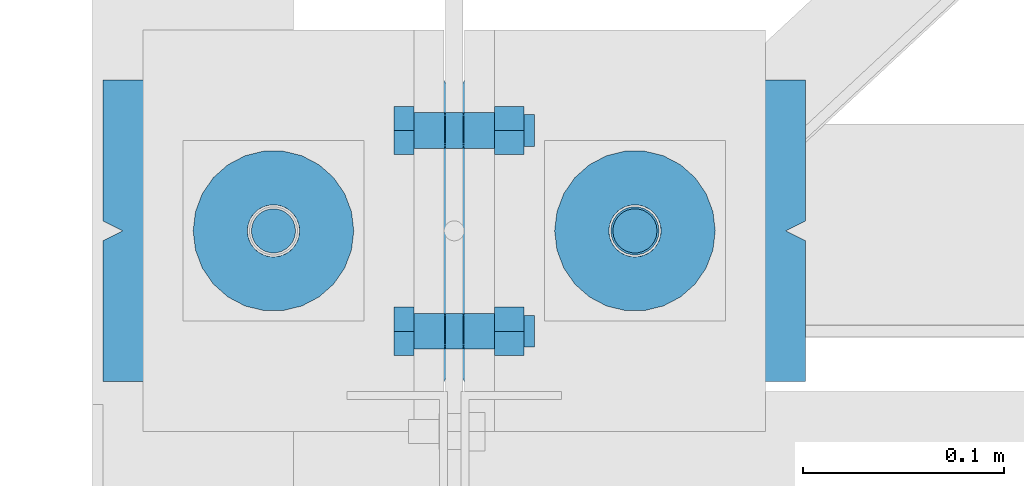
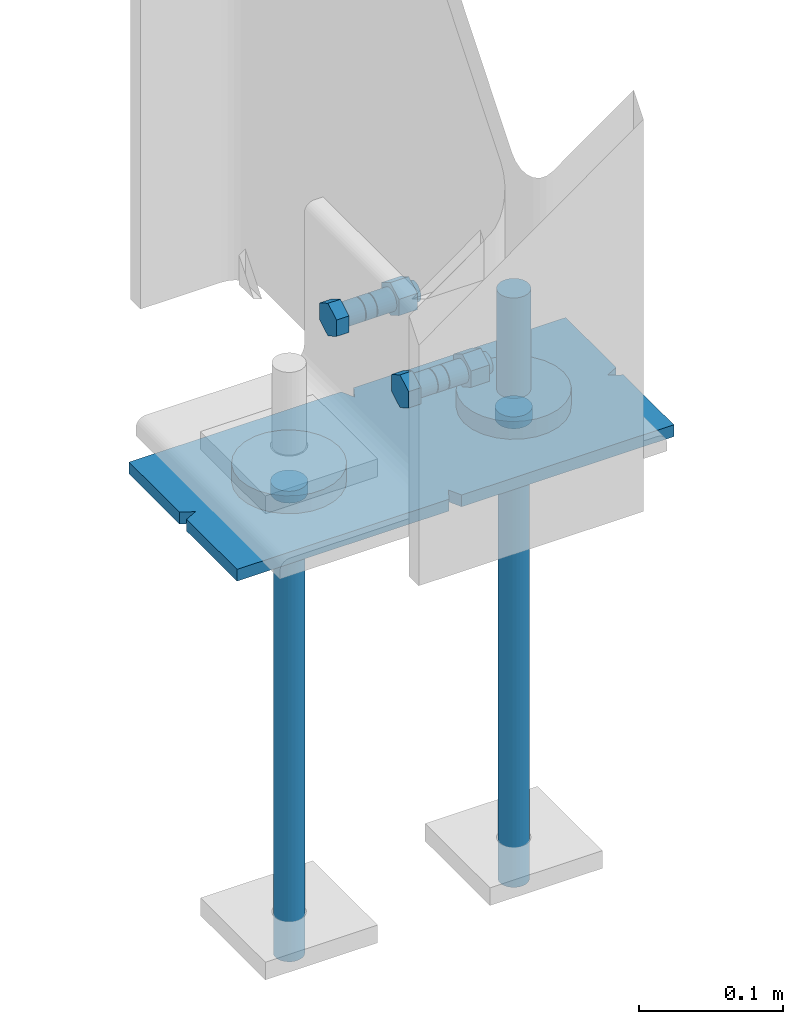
# One storey, part 59 of 123: 4 discrete accessories, 4 mechanical fasteners, 3 elements without a shape of their own.
"""IFC2X3 building model written with IfcOpenShell, lengths in millimetres."""

from ifc_helpers import new_model, si_unit, frame, origin_with_axes, origin_2d_with_axis, place, context, subcontext, project, spatial, polyline, circle, outline, extrude, boolean, source, transform, mapped, material, type_object, element, aggregate, save


model = new_model("IFC2X3")

# Units and contexts
model_context = context("Model", 3, precision=1e-05, world=origin_with_axes())
body_context = subcontext(model_context, "Body", "Model", "MODEL_VIEW")
ifc_project = project(units=[si_unit("LENGTHUNIT", "METRE", prefix="MILLI"), si_unit("AREAUNIT", "SQUARE_METRE"), si_unit("VOLUMEUNIT", "CUBIC_METRE"), si_unit("MASSUNIT", "GRAM", prefix="KILO"), si_unit("TIMEUNIT", "SECOND"), si_unit("PLANEANGLEUNIT", "RADIAN"), si_unit("SOLIDANGLEUNIT", "STERADIAN"), si_unit("THERMODYNAMICTEMPERATUREUNIT", "DEGREE_CELSIUS"), si_unit("LUMINOUSINTENSITYUNIT", "LUMEN")], contexts=[model_context])

# Site, building, storey
site_placement = place(None, origin_with_axes())
site = spatial("IfcSite", under=ifc_project, at=site_placement, Name="Undefined", CompositionType="ELEMENT")
building_placement = place(site_placement, origin_with_axes())
building = spatial("IfcBuilding", under=site, at=building_placement, Name="Undefined", CompositionType="ELEMENT")
storey_placement = place(building_placement, origin_with_axes())
storey = spatial("IfcBuildingStorey", under=building, at=storey_placement, Name="Undefined", CompositionType="ELEMENT", Elevation=0.0)

# Assembly, mechanical fastener
assembly_1_placement = place(storey_placement, origin_with_axes())
assembly_1 = element("IfcElementAssembly", 1, at=assembly_1_placement, inside=storey, Name="Steel Assembly", AssemblyPlace="NOTDEFINED", PredefinedType="RIGID_FRAME")
ifc_material_1 = material(Name="6.8")
discrete_accessory_type_1 = type_object("IfcDiscreteAccessoryType", Name="Bolt assembly")
shared_shape_1 = source(origin_with_axes(), body_context, "Body", "SweptSolid", [
    extrude(circle(Radius=40.0, at=origin_2d_with_axis()), frame((0.0, -15.0, 0.0), z_axis=(0.0, 1.0, 0.0), x_axis=(1.0, 0.0, 0.0)), (0.0, 0.0, 1.0), 15.1),
])
mechanical_fastener_1_placement = place(assembly_1_placement, frame((-90.0028495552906, 0.0, -250.0), z_axis=(0.0, 1.0, 0.0), x_axis=(1.0, 0.0, 0.0)))
mechanical_fastener_1 = element("IfcMechanicalFastener", 2, at=mechanical_fastener_1_placement, type_object=discrete_accessory_type_1, material=ifc_material_1, Name="Bolt assembly", NominalDiameter=30.0, NominalLength=15.0, context=body_context, shape_type="MappedRepresentation", body=[
    mapped(shared_shape_1, transform((0.0, 0.0, 0.0))),
])

assembly_2_placement = place(storey_placement, origin_with_axes())
assembly_2 = element("IfcElementAssembly", 3, at=assembly_2_placement, inside=storey, Name="Steel Assembly", AssemblyPlace="NOTDEFINED", PredefinedType="RIGID_FRAME")
mechanical_fastener_2_placement = place(assembly_2_placement, frame((89.9971504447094, 0.0, -250.0), z_axis=(0.0, -1.0, 0.0), x_axis=(-1.0, 0.0, 0.0)))
mechanical_fastener_2 = element("IfcMechanicalFastener", 4, at=mechanical_fastener_2_placement, type_object=discrete_accessory_type_1, material=ifc_material_1, Name="Bolt assembly", NominalDiameter=30.0, NominalLength=15.0, context=body_context, shape_type="MappedRepresentation", body=[
    mapped(shared_shape_1, transform((0.0, 0.0, 0.0))),
])
aggregate(assembly_2, [mechanical_fastener_2])

# Assembly, mechanical fastener, discrete accessories
assembly_3_placement = place(storey_placement, origin_with_axes())
assembly_3 = element("IfcElementAssembly", 5, at=assembly_3_placement, inside=storey, Name="Steel Assembly", AssemblyPlace="NOTDEFINED", PredefinedType="RIGID_FRAME")
shared_shape_2 = source(origin_with_axes(), body_context, "Body", "SweptSolid", [
    extrude(circle(Radius=13.0, at=origin_2d_with_axis()), frame((0.0, 0.0, 0.0), z_axis=(0.0, 1.0, 0.0), x_axis=(1.0, 0.0, 0.0)), (0.0, 0.0, 1.0), 10.1),
])
mechanical_fastener_3_placement = place(assembly_3_placement, frame((7.3411058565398e-08, 0.0, -250.0), z_axis=(-1.0, 0.0, 0.0), x_axis=(0.0, 1.0, 0.0)))
mechanical_fastener_3 = element("IfcMechanicalFastener", 6, at=mechanical_fastener_3_placement, type_object=discrete_accessory_type_1, material=ifc_material_1, Name="Bolt assembly", NominalDiameter=24.0, NominalLength=10.0, context=body_context, shape_type="MappedRepresentation", body=[
    mapped(shared_shape_2, transform((-4.00177668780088e-11, 0.0, -90.0))),
    mapped(shared_shape_2, transform((4.00177668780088e-11, 0.0, 90.0))),
])
ifc_material_2 = material(Name="STEEL/S235-E24")
discrete_accessory_type_2 = type_object("IfcDiscreteAccessoryType", Name="TIGE D'ANCRAGE")
discrete_accessory_1_placement = place(assembly_3_placement, frame((-90.0028495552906, 0.0, -300.0), z_axis=(0.0, 1.0, 0.0), x_axis=(0.0, 0.0, -1.0)))
discrete_accessory_1 = element("IfcDiscreteAccessory", 7, at=discrete_accessory_1_placement, type_object=discrete_accessory_type_2, material=ifc_material_2, Name="TIGE D'ANCRAGE", ObjectType="D22", context=body_context, shape_type="SweptSolid", body=[
    extrude(circle(Radius=11.0, at=origin_2d_with_axis()), frame((350.0, 0.0, 0.0), z_axis=(-1.0, 0.0, 0.0), x_axis=(0.0, -1.0, 0.0)), (0.0, 0.0, 1.0), 350.0),
])
discrete_accessory_2_placement = place(assembly_3_placement, frame((89.9971504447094, 0.0, -150.0), z_axis=(0.0, 1.0, 0.0), x_axis=(0.0, 0.0, -1.0)))
discrete_accessory_2 = element("IfcDiscreteAccessory", 8, at=discrete_accessory_2_placement, type_object=discrete_accessory_type_2, material=ifc_material_2, Name="TIGE D'ANCRAGE", ObjectType="D24", context=body_context, shape_type="SweptSolid", body=[
    extrude(circle(Radius=12.0, at=origin_2d_with_axis()), frame((150.0, 0.0, 0.0), z_axis=(-1.0, 0.0, 0.0), x_axis=(0.0, -1.0, 0.0)), (0.0, 0.0, 1.0), 150.0),
])
discrete_accessory_3_placement = place(assembly_3_placement, frame((89.9971504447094, 0.0, -300.0), z_axis=(0.0, 1.0, 0.0), x_axis=(0.0, 0.0, -1.0)))
discrete_accessory_3 = element("IfcDiscreteAccessory", 9, at=discrete_accessory_3_placement, type_object=discrete_accessory_type_2, material=ifc_material_2, Name="TIGE D'ANCRAGE", ObjectType="D22", context=body_context, shape_type="SweptSolid", body=[
    extrude(circle(Radius=11.0, at=origin_2d_with_axis()), frame((350.0, 0.0, 0.0), z_axis=(-1.0, 0.0, 0.0), x_axis=(0.0, -1.0, 0.0)), (0.0, 0.0, 1.0), 350.0),
])
discrete_accessory_type_3 = type_object("IfcDiscreteAccessoryType", Name="PRESCELLEMENT PS24")
discrete_accessory_4_placement = place(assembly_3_placement, frame((175.0, 0.0, -255.0), z_axis=(0.0, 0.0, 1.0), x_axis=(-1.0, 0.0, 0.0)))
discrete_accessory_4 = element("IfcDiscreteAccessory", 10, at=discrete_accessory_4_placement, type_object=discrete_accessory_type_3, material=ifc_material_2, Name="PRESCELLEMENT PS24", ObjectType="PL10*150", context=body_context, shape_type="CSG", body=[
    boolean("DIFFERENCE", boolean("DIFFERENCE", boolean("DIFFERENCE", boolean("DIFFERENCE", extrude(outline(polyline([(175.000000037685, -65.0000000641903), (169.999999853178, -74.9999999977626), (0.0, -75.0), (0.0, -5.0), (9.99999993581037, -3.76858224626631e-08), (0.0, 5.00000014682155), (0.0, 75.0), (170.0, 75.0), (174.999999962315, 65.0000000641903), (180.000000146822, 75.0), (350.0, 75.0), (350.0, 5.00000018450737), (340.0, 0.0), (350.0, -4.99999996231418), (350.0, -75.0), (180.0, -75.0), (175.000000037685, -65.0000000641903)])), frame((0.0, 0.0, -5.0), z_axis=(0.0, 0.0, 1.0), x_axis=(1.0, 0.0, 0.0)), (0.0, 0.0, 1.0), 10.0), extrude(outline(polyline([(0.0, 0.0), (11.1803398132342, 1.2732925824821e-11), (4.47213602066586, 8.94427204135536), (0.0, 0.0)])), frame((0.0, -5.0, -7.5), z_axis=(0.0, 0.0, 1.0), x_axis=(0.89442719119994, 0.44721359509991, 0.0)), (0.0, 0.0, 1.0), 15.0)), extrude(outline(polyline([(0.0, 0.0), (11.1803398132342, 1.2732925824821e-11), (4.47213602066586, 8.94427204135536), (0.0, 0.0)])), frame((180.0, -75.0, -7.5), z_axis=(0.0, 0.0, 1.0), x_axis=(-0.447213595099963, 0.894427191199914, 0.0)), (0.0, 0.0, 1.0), 15.0)), extrude(outline(polyline([(0.0, 0.0), (11.1803398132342, 1.2732925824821e-11), (6.70820379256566, 8.94427204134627), (0.0, 0.0)])), frame((340.0, 0.0, -7.5), z_axis=(0.0, 0.0, 1.0), x_axis=(0.89442719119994, -0.44721359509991, 0.0)), (0.0, 0.0, 1.0), 15.0)), extrude(outline(polyline([(0.0, 0.0), (11.1803398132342, 1.2732925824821e-11), (4.47213602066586, 8.94427204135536), (0.0, 0.0)])), frame((170.0, 75.0, -7.5), z_axis=(0.0, 0.0, 1.0), x_axis=(0.447213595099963, -0.894427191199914, 0.0)), (0.0, 0.0, 1.0), 15.0)),
])
aggregate(assembly_3, [discrete_accessory_1, discrete_accessory_2, discrete_accessory_3, mechanical_fastener_3, discrete_accessory_4])

# Mechanical fastener
ifc_material_3 = material(Name="8.8-SB-Z")
shared_shape_3 = source(origin_with_axes(), body_context, "Body", "SweptSolid", [
    extrude(circle(Radius=9.0, at=origin_2d_with_axis()), frame((0.0, -4.29715063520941, 0.0), z_axis=(0.0, 1.0, 0.0), x_axis=(1.0, 0.0, 0.0)), (0.0, 0.0, 1.0), 8.6),
    extrude(circle(Radius=9.0, at=origin_2d_with_axis()), frame((0.0, -19.9, 0.0), z_axis=(0.0, 1.0, 0.0), x_axis=(1.0, 0.0, 0.0)), (0.0, 0.0, 1.0), 15.0),
    extrude(circle(Radius=9.0, at=origin_2d_with_axis()), frame((0.0, 4.90000000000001, 0.0), z_axis=(0.0, 1.0, 0.0), x_axis=(1.0, 0.0, 0.0)), (0.0, 0.0, 1.0), 15.1),
    extrude(outline(polyline([(13.85640646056, 0.0), (6.92820323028, 12.0000000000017), (-6.92820323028, 12.0000000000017), (-13.85640646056, 0.0), (-6.92820323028, -12.0000000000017), (6.92820323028, -12.0000000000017), (13.85640646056, 0.0)])), frame((0.0, -30.0, 0.0), z_axis=(0.0, 1.0, 0.0), x_axis=(1.0, 0.0, 0.0)), (0.0, 0.0, 1.0), 10.0),
    extrude(circle(Radius=8.0, at=origin_2d_with_axis()), frame((0.0, -20.0, 0.0), z_axis=(0.0, 1.0, 0.0), x_axis=(1.0, 0.0, 0.0)), (0.0, 0.0, 1.0), 60.0),
    extrude(outline(polyline([(13.85640646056, 0.0), (6.92820323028, 12.0000000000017), (-6.92820323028, 12.0000000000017), (-13.85640646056, 0.0), (-6.92820323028, -12.0000000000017), (6.92820323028, -12.0000000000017), (13.85640646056, 0.0)])), frame((0.0, 20.0, 0.0), z_axis=(0.0, 1.0, 0.0), x_axis=(1.0, 0.0, 0.0)), (0.0, 0.0, 1.0), 14.8),
])
mechanical_fastener_4_placement = place(assembly_1_placement, frame((-0.00284955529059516, 0.0, -165.0), z_axis=(0.0, -1.0, 0.0), x_axis=(0.0, 0.0, -1.0)))
mechanical_fastener_4 = element("IfcMechanicalFastener", 11, at=mechanical_fastener_4_placement, type_object=discrete_accessory_type_1, material=ifc_material_3, Name="Bolt assembly", NominalDiameter=16.0, NominalLength=60.0, context=body_context, shape_type="MappedRepresentation", body=[
    mapped(shared_shape_3, transform((0.0, 0.0, 50.0))),
    mapped(shared_shape_3, transform((0.0, 0.0, -50.0))),
])

aggregate(assembly_1, [mechanical_fastener_1, mechanical_fastener_4])

save(model, "model.ifc")
